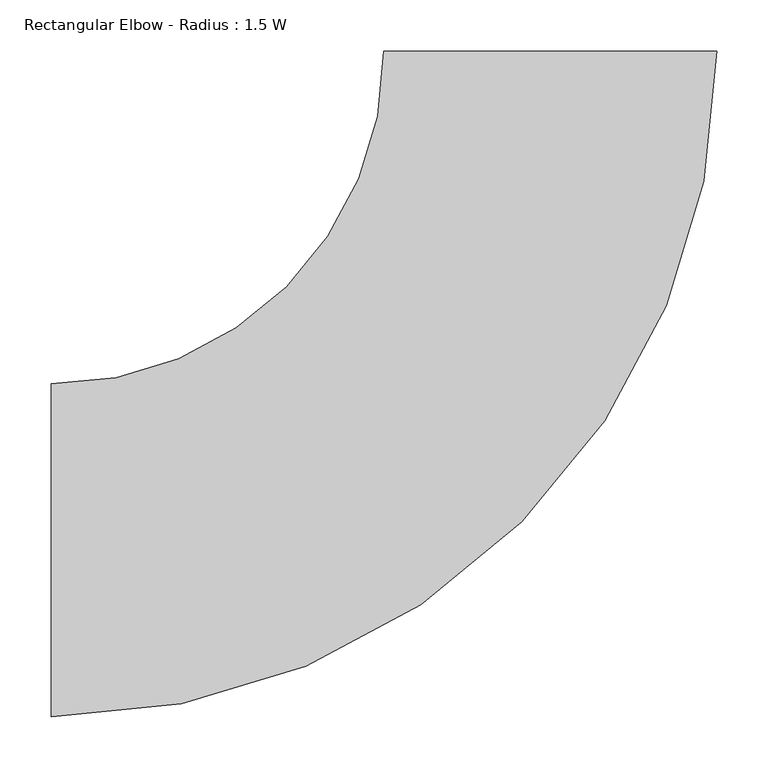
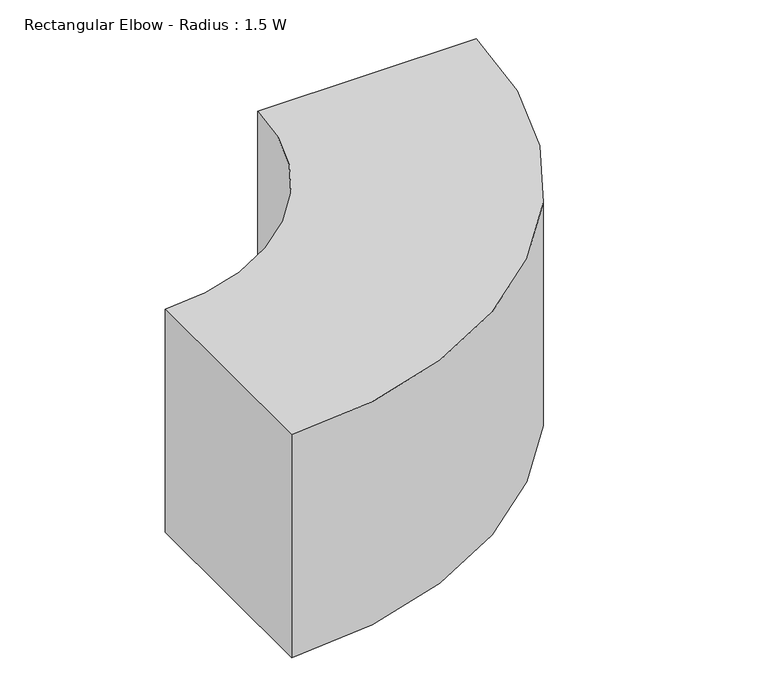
"""IFC4 building model written with IfcOpenShell, lengths in millimetres: duct fitting geometry, Rectangular Elbow - Radius : 1.5 W."""

from ifc_helpers import new_model, si_unit, point, frame, frame_2d, origin, place, context, project, spatial, polyline, circle_curve, trimmed, segment, composite_curve, outline, extrude, source, transform, mapped, element, save


def rectangular_elbow_radius_1_5_w_b3692870(model_context):
    return source(origin(), model_context, "Body", "SweptSolid", [
        extrude(outline(composite_curve([segment(trimmed(circle_curve(frame_2d((-487.5, 487.5)), 650.0), [point((162.5, 487.5))], [point((-487.5, -162.5))], False, "CARTESIAN"), True, "CONTINUOUS"), segment(polyline([(-487.5, -162.5), (-487.5, 162.5)]), True, "CONTINUOUS"), segment(trimmed(circle_curve(frame_2d((-487.5, 487.5)), 325.0), [point((-487.5, 162.5))], [point((-162.5, 487.5))], True, "CARTESIAN"), True, "CONTINUOUS"), segment(polyline([(-162.5, 487.5), (162.5, 487.5)]), True, "CONTINUOUS")], self_intersect=False)), frame((0.0, 0.0, -175.0), z_axis=(0.0, 0.0, 1.0), x_axis=(1.0, 0.0, 0.0)), (0.0, 0.0, 1.0), 350.0),
    ])


if __name__ == "__main__":
    model = new_model("IFC4")
    model_context = context("Model", 3, world=origin())
    ifc_project = project(units=[si_unit("LENGTHUNIT", "METRE", prefix="MILLI")], contexts=[model_context])
    site = spatial("IfcSite", under=ifc_project)
    building = spatial("IfcBuilding", under=site)
    placement = place(None, origin())
    rectangular_elbow_radius_1_5_w_shape = rectangular_elbow_radius_1_5_w_b3692870(model_context)
    element("IfcDuctFitting", 1, ObjectType="Rectangular Elbow - Radius : 1.5 W", at=placement, inside=building, context=model_context, shape_type="MappedRepresentation", body=[
        mapped(rectangular_elbow_radius_1_5_w_shape, transform((0.0, 0.0, 0.0), x_axis=(1.0, 0.0, 0.0), y_axis=(0.0, 1.0, 0.0), z_axis=(0.0, 0.0, 1.0))),
    ])
    save(model, "model.ifc")
